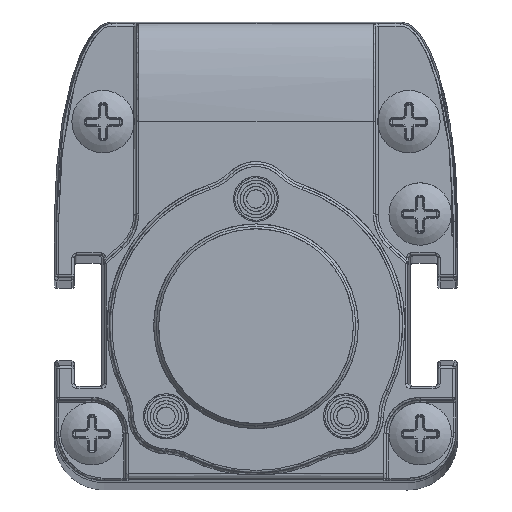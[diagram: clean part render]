
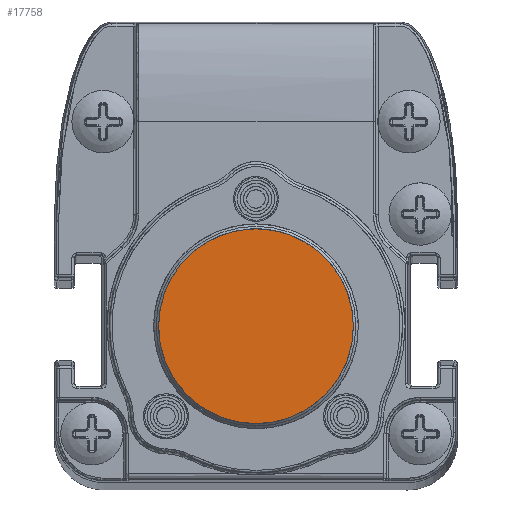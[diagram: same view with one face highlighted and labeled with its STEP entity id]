
A CAD part, top view. The second image highlights one B-rep face of the part: STEP entity #17758.
In plain terms, the highlighted planar face has unit normal (0, 0, 1).
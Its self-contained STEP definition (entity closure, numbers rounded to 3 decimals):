
#15041=B_SPLINE_CURVE_WITH_KNOTS('',3,(#62226,#62227,#62228,#62229,#62230,
#62231,#62232,#62233,#62234,#62235,#62236,#62237,#62238,#62239,#62240,#62241,
#62242,#62243,#62244,#62245,#62246,#62247,#62248,#62249,#62250,#62251,#62252,
#62253,#62254,#62255,#62256,#62257,#62258,#62259,#62260,#62261,#62262,#62263,
#62264,#62265,#62266,#62267,#62268,#62269,#62270,#62271,#62272,#62273,#62274,
#62275,#62276,#62277,#62278,#62279,#62280,#62281,#62282,#62283,#62284,#62285,
#62286,#62287,#62288,#62289,#62290,#62291,#62292,#62293,#62294,#62295,#62296,
#62297,#62298,#62299,#62300,#62301,#62302,#62303,#62304,#62305,#62306,#62307,
#62308,#62309,#62310,#62311,#62312,#62313,#62314,#62315,#62316,#62317,#62318,
#62319,#62320,#62321,#62322,#62323,#62324,#62325,#62326,#62327,#62328),
 .UNSPECIFIED.,.T.,.F.,(1,3,3,3,3,3,3,3,3,3,3,3,3,3,3,3,3,3,3,3,3,3,3,3,
3,3,3,3,3,3,3,3,3,3,3,3,1),(-0.029,0.,0.029,0.059,
0.088,0.118,0.147,0.176,
0.206,0.235,0.265,0.294,
0.324,0.353,0.382,0.412,
0.441,0.471,0.5,0.529,0.559,
0.588,0.618,0.647,0.676,
0.706,0.735,0.765,0.794,
0.824,0.853,0.882,0.912,
0.941,0.971,1.,1.029),.UNSPECIFIED.);
#17758=ADVANCED_FACE('',(#19729),#18654,.T.);
#18654=PLANE('',#42792);
#19729=FACE_OUTER_BOUND('',#21181,.T.);
#21181=EDGE_LOOP('',(#27368));
#27368=ORIENTED_EDGE('',*,*,#36219,.T.);
#31358=VERTEX_POINT('',#62329);
#36219=EDGE_CURVE('',#31358,#31358,#15041,.T.);
#42792=AXIS2_PLACEMENT_3D('',#62330,#46691,#46692);
#46691=DIRECTION('',(0.,0.,1.));
#46692=DIRECTION('',(1.,0.,0.));
#62226=CARTESIAN_POINT('',(7.8,0.,383.24));
#62227=CARTESIAN_POINT('',(7.8,0.465,383.24));
#62228=CARTESIAN_POINT('',(7.759,0.925,383.24));
#62229=CARTESIAN_POINT('',(7.679,1.376,383.24));
#62230=CARTESIAN_POINT('',(7.638,1.601,383.24));
#62231=CARTESIAN_POINT('',(7.588,1.825,383.24));
#62232=CARTESIAN_POINT('',(7.527,2.047,383.24));
#62233=CARTESIAN_POINT('',(7.466,2.269,383.24));
#62234=CARTESIAN_POINT('',(7.407,2.458,383.24));
#62235=CARTESIAN_POINT('',(7.315,2.708,383.24));
#62236=CARTESIAN_POINT('',(7.129,3.209,383.24));
#62237=CARTESIAN_POINT('',(6.898,3.683,383.24));
#62238=CARTESIAN_POINT('',(6.62,4.128,383.24));
#62239=CARTESIAN_POINT('',(6.343,4.573,383.24));
#62240=CARTESIAN_POINT('',(6.043,4.965,383.24));
#62241=CARTESIAN_POINT('',(5.651,5.376,383.24));
#62242=CARTESIAN_POINT('',(4.868,6.2,383.24));
#62243=CARTESIAN_POINT('',(3.912,6.837,383.24));
#62244=CARTESIAN_POINT('',(2.89,7.245,383.24));
#62245=CARTESIAN_POINT('',(2.378,7.449,383.24));
#62246=CARTESIAN_POINT('',(1.856,7.597,383.24));
#62247=CARTESIAN_POINT('',(1.324,7.689,383.24));
#62248=CARTESIAN_POINT('',(1.058,7.734,383.24));
#62249=CARTESIAN_POINT('',(0.79,7.766,383.24));
#62250=CARTESIAN_POINT('',(0.52,7.784,383.24));
#62251=CARTESIAN_POINT('',(0.249,7.801,383.24));
#62252=CARTESIAN_POINT('',(-0.055,7.804,383.24));
#62253=CARTESIAN_POINT('',(-0.3,7.794,383.24));
#62254=CARTESIAN_POINT('',(-0.79,7.775,383.24));
#62255=CARTESIAN_POINT('',(-1.271,7.712,383.24));
#62256=CARTESIAN_POINT('',(-1.742,7.604,383.24));
#62257=CARTESIAN_POINT('',(-2.213,7.496,383.24));
#62258=CARTESIAN_POINT('',(-2.713,7.327,383.24));
#62259=CARTESIAN_POINT('',(-3.123,7.147,383.24));
#62260=CARTESIAN_POINT('',(-3.534,6.968,383.24));
#62261=CARTESIAN_POINT('',(-3.924,6.757,383.24));
#62262=CARTESIAN_POINT('',(-4.293,6.513,383.24));
#62263=CARTESIAN_POINT('',(-4.477,6.392,383.24));
#62264=CARTESIAN_POINT('',(-4.656,6.262,383.24));
#62265=CARTESIAN_POINT('',(-4.83,6.125,383.24));
#62266=CARTESIAN_POINT('',(-5.004,5.987,383.24));
#62267=CARTESIAN_POINT('',(-5.15,5.864,383.24));
#62268=CARTESIAN_POINT('',(-5.337,5.688,383.24));
#62269=CARTESIAN_POINT('',(-5.712,5.337,383.24));
#62270=CARTESIAN_POINT('',(-6.047,4.956,383.24));
#62271=CARTESIAN_POINT('',(-6.341,4.545,383.24));
#62272=CARTESIAN_POINT('',(-6.635,4.134,383.24));
#62273=CARTESIAN_POINT('',(-6.869,3.738,383.24));
#62274=CARTESIAN_POINT('',(-7.102,3.226,383.24));
#62275=CARTESIAN_POINT('',(-7.567,2.203,383.24));
#62276=CARTESIAN_POINT('',(-7.8,1.124,383.24));
#62277=CARTESIAN_POINT('',(-7.8,0.,383.24));
#62278=CARTESIAN_POINT('',(-7.8,-0.562,383.24));
#62279=CARTESIAN_POINT('',(-7.742,-1.113,383.24));
#62280=CARTESIAN_POINT('',(-7.625,-1.651,383.24));
#62281=CARTESIAN_POINT('',(-7.509,-2.189,383.24));
#62282=CARTESIAN_POINT('',(-7.314,-2.758,383.24));
#62283=CARTESIAN_POINT('',(-7.102,-3.226,383.24));
#62284=CARTESIAN_POINT('',(-6.889,-3.694,383.24));
#62285=CARTESIAN_POINT('',(-6.636,-4.134,383.24));
#62286=CARTESIAN_POINT('',(-6.341,-4.544,383.24));
#62287=CARTESIAN_POINT('',(-6.194,-4.75,383.24));
#62288=CARTESIAN_POINT('',(-6.037,-4.947,383.24));
#62289=CARTESIAN_POINT('',(-5.87,-5.138,383.24));
#62290=CARTESIAN_POINT('',(-5.702,-5.329,383.24));
#62291=CARTESIAN_POINT('',(-5.5,-5.535,383.24));
#62292=CARTESIAN_POINT('',(-5.337,-5.688,383.24));
#62293=CARTESIAN_POINT('',(-5.01,-5.995,383.24));
#62294=CARTESIAN_POINT('',(-4.662,-6.27,383.24));
#62295=CARTESIAN_POINT('',(-4.293,-6.513,383.24));
#62296=CARTESIAN_POINT('',(-3.924,-6.756,383.24));
#62297=CARTESIAN_POINT('',(-3.573,-6.951,383.24));
#62298=CARTESIAN_POINT('',(-3.123,-7.147,383.24));
#62299=CARTESIAN_POINT('',(-2.674,-7.344,383.24));
#62300=CARTESIAN_POINT('',(-2.213,-7.496,383.24));
#62301=CARTESIAN_POINT('',(-1.743,-7.604,383.24));
#62302=CARTESIAN_POINT('',(-1.507,-7.658,383.24));
#62303=CARTESIAN_POINT('',(-1.269,-7.701,383.24));
#62304=CARTESIAN_POINT('',(-1.029,-7.732,383.24));
#62305=CARTESIAN_POINT('',(-0.789,-7.764,383.24));
#62306=CARTESIAN_POINT('',(-0.575,-7.784,383.24));
#62307=CARTESIAN_POINT('',(-0.3,-7.794,383.24));
#62308=CARTESIAN_POINT('',(0.801,-7.837,383.24));
#62309=CARTESIAN_POINT('',(1.834,-7.666,383.24));
#62310=CARTESIAN_POINT('',(2.89,-7.245,383.24));
#62311=CARTESIAN_POINT('',(3.417,-7.035,383.24));
#62312=CARTESIAN_POINT('',(3.912,-6.774,383.24));
#62313=CARTESIAN_POINT('',(4.372,-6.462,383.24));
#62314=CARTESIAN_POINT('',(4.833,-6.15,383.24));
#62315=CARTESIAN_POINT('',(5.283,-5.763,383.24));
#62316=CARTESIAN_POINT('',(5.651,-5.376,383.24));
#62317=CARTESIAN_POINT('',(6.019,-4.989,383.24));
#62318=CARTESIAN_POINT('',(6.342,-4.573,383.24));
#62319=CARTESIAN_POINT('',(6.62,-4.128,383.24));
#62320=CARTESIAN_POINT('',(6.759,-3.906,383.24));
#62321=CARTESIAN_POINT('',(6.886,-3.676,383.24));
#62322=CARTESIAN_POINT('',(7.002,-3.44,383.24));
#62323=CARTESIAN_POINT('',(7.117,-3.203,383.24));
#62324=CARTESIAN_POINT('',(7.234,-2.926,383.24));
#62325=CARTESIAN_POINT('',(7.315,-2.708,383.24));
#62326=CARTESIAN_POINT('',(7.638,-1.835,383.24));
#62327=CARTESIAN_POINT('',(7.8,-0.933,383.24));
#62328=CARTESIAN_POINT('',(7.8,0.,383.24));
#62329=CARTESIAN_POINT('',(7.8,0.,383.24));
#62330=CARTESIAN_POINT('',(-8.9,-8.81,383.24));
